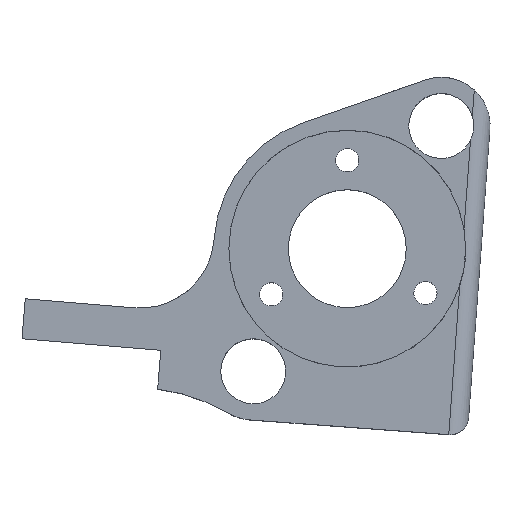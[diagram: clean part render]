
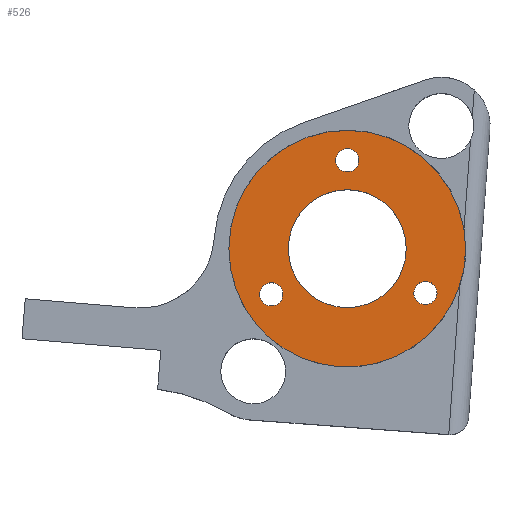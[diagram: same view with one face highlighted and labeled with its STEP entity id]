
A CAD part, top view. The second image highlights one B-rep face of the part: STEP entity #526.
In plain terms, the highlighted planar face has unit normal (0, 0, 1).
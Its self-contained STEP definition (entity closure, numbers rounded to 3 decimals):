
#10 = CIRCLE ( 'NONE', #87, 6.35 ) ;
#15 = FACE_BOUND ( 'NONE', #634, .T. ) ;
#66 = CIRCLE ( 'NONE', #1861, 12.75 ) ;
#76 = PLANE ( 'NONE',  #2318 ) ;
#83 = CARTESIAN_POINT ( 'NONE',  ( 0.485, -4.903, 6. ) ) ;
#87 = AXIS2_PLACEMENT_3D ( 'NONE', #2149, #995, #571 ) ;
#92 = CIRCLE ( 'NONE', #1568, 1.25 ) ;
#104 = VERTEX_POINT ( 'NONE', #1270 ) ;
#189 = CARTESIAN_POINT ( 'NONE',  ( 9.912, 9.539, 6. ) ) ;
#200 = CARTESIAN_POINT ( 'NONE',  ( 22.662, 0.014, 6. ) ) ;
#203 = DIRECTION ( 'NONE',  ( 1., 0., 0. ) ) ;
#219 = DIRECTION ( 'NONE',  ( 0., 0., 1. ) ) ;
#229 = AXIS2_PLACEMENT_3D ( 'NONE', #1658, #1327, #1121 ) ;
#235 = ORIENTED_EDGE ( 'NONE', *, *, #1036, .T. ) ;
#238 = CIRCLE ( 'NONE', #1623, 1.25 ) ;
#254 = CARTESIAN_POINT ( 'NONE',  ( 2.985, -4.903, 6. ) ) ;
#282 = DIRECTION ( 'NONE',  ( 1., 0., 0. ) ) ;
#301 = DIRECTION ( 'NONE',  ( 0., 0., 1. ) ) ;
#320 = ORIENTED_EDGE ( 'NONE', *, *, #1419, .F. ) ;
#398 = ORIENTED_EDGE ( 'NONE', *, *, #886, .T. ) ;
#452 = FACE_BOUND ( 'NONE', #1485, .T. ) ;
#468 = DIRECTION ( 'NONE',  ( 0., 0., 1. ) ) ;
#512 = FACE_BOUND ( 'NONE', #2035, .T. ) ;
#525 = EDGE_CURVE ( 'NONE', #696, #104, #1854, .T. ) ;
#526 = ADVANCED_FACE ( 'NONE', ( #15, #452, #1397, #512, #2281 ), #76, .T. ) ;
#537 = EDGE_LOOP ( 'NONE', ( #1975, #1993 ) ) ;
#546 = ORIENTED_EDGE ( 'NONE', *, *, #1990, .F. ) ;
#566 = AXIS2_PLACEMENT_3D ( 'NONE', #1278, #1518, #282 ) ;
#571 = DIRECTION ( 'NONE',  ( 1., 0., 0. ) ) ;
#580 = ORIENTED_EDGE ( 'NONE', *, *, #731, .F. ) ;
#588 = CARTESIAN_POINT ( 'NONE',  ( -2.838, 0.014, 6. ) ) ;
#590 = CARTESIAN_POINT ( 'NONE',  ( 19.58, -4.762, 6. ) ) ;
#595 = CARTESIAN_POINT ( 'NONE',  ( 1.735, -4.903, 6. ) ) ;
#613 = VERTEX_POINT ( 'NONE', #1955 ) ;
#634 = EDGE_LOOP ( 'NONE', ( #826, #580 ) ) ;
#656 = CIRCLE ( 'NONE', #855, 1.25 ) ;
#696 = VERTEX_POINT ( 'NONE', #1890 ) ;
#697 = EDGE_CURVE ( 'NONE', #1178, #2155, #656, .T. ) ;
#716 = CARTESIAN_POINT ( 'NONE',  ( 1.735, -4.903, 6. ) ) ;
#731 = EDGE_CURVE ( 'NONE', #1627, #1784, #92, .T. ) ;
#777 = VERTEX_POINT ( 'NONE', #200 ) ;
#817 = DIRECTION ( 'NONE',  ( 0., 0., 1. ) ) ;
#826 = ORIENTED_EDGE ( 'NONE', *, *, #875, .F. ) ;
#827 = DIRECTION ( 'NONE',  ( 1., 0., 0. ) ) ;
#831 = VERTEX_POINT ( 'NONE', #2126 ) ;
#844 = CIRCLE ( 'NONE', #2271, 1.25 ) ;
#855 = AXIS2_PLACEMENT_3D ( 'NONE', #1351, #468, #1659 ) ;
#875 = EDGE_CURVE ( 'NONE', #1784, #1627, #844, .T. ) ;
#886 = EDGE_CURVE ( 'NONE', #2085, #777, #1669, .T. ) ;
#952 = DIRECTION ( 'NONE',  ( 0., 0., 1. ) ) ;
#995 = DIRECTION ( 'NONE',  ( 0., 0., 1. ) ) ;
#1036 = EDGE_CURVE ( 'NONE', #777, #2085, #66, .T. ) ;
#1121 = DIRECTION ( 'NONE',  ( 1., 0., 0. ) ) ;
#1151 = CIRCLE ( 'NONE', #2090, 6.35 ) ;
#1178 = VERTEX_POINT ( 'NONE', #590 ) ;
#1190 = ORIENTED_EDGE ( 'NONE', *, *, #2290, .F. ) ;
#1262 = CIRCLE ( 'NONE', #229, 1.25 ) ;
#1270 = CARTESIAN_POINT ( 'NONE',  ( 11.162, 9.539, 6. ) ) ;
#1278 = CARTESIAN_POINT ( 'NONE',  ( 9.912, 0.014, 6. ) ) ;
#1300 = CARTESIAN_POINT ( 'NONE',  ( 9.912, 0.014, 6. ) ) ;
#1309 = CARTESIAN_POINT ( 'NONE',  ( 17.08, -4.762, 6. ) ) ;
#1327 = DIRECTION ( 'NONE',  ( 0., 0., 1. ) ) ;
#1351 = CARTESIAN_POINT ( 'NONE',  ( 18.33, -4.762, 6. ) ) ;
#1397 = FACE_BOUND ( 'NONE', #537, .T. ) ;
#1419 = EDGE_CURVE ( 'NONE', #2155, #1178, #1262, .T. ) ;
#1485 = EDGE_LOOP ( 'NONE', ( #1609, #320 ) ) ;
#1518 = DIRECTION ( 'NONE',  ( 0., 0., 1. ) ) ;
#1568 = AXIS2_PLACEMENT_3D ( 'NONE', #595, #219, #2160 ) ;
#1578 = DIRECTION ( 'NONE',  ( 1., 0., 0. ) ) ;
#1596 = DIRECTION ( 'NONE',  ( 1., 0., 0. ) ) ;
#1609 = ORIENTED_EDGE ( 'NONE', *, *, #697, .F. ) ;
#1611 = DIRECTION ( 'NONE',  ( 0., 0., 1. ) ) ;
#1623 = AXIS2_PLACEMENT_3D ( 'NONE', #189, #301, #1578 ) ;
#1627 = VERTEX_POINT ( 'NONE', #83 ) ;
#1658 = CARTESIAN_POINT ( 'NONE',  ( 18.33, -4.762, 6. ) ) ;
#1659 = DIRECTION ( 'NONE',  ( 1., 0., 0. ) ) ;
#1669 = CIRCLE ( 'NONE', #566, 12.75 ) ;
#1673 = CARTESIAN_POINT ( 'NONE',  ( 9.912, 9.539, 6. ) ) ;
#1684 = DIRECTION ( 'NONE',  ( 1., 0., 0. ) ) ;
#1694 = DIRECTION ( 'NONE',  ( 0., 0., 1. ) ) ;
#1762 = DIRECTION ( 'NONE',  ( 0., 0., 1. ) ) ;
#1784 = VERTEX_POINT ( 'NONE', #254 ) ;
#1854 = CIRCLE ( 'NONE', #1960, 1.25 ) ;
#1861 = AXIS2_PLACEMENT_3D ( 'NONE', #2223, #817, #1684 ) ;
#1890 = CARTESIAN_POINT ( 'NONE',  ( 8.662, 9.539, 6. ) ) ;
#1940 = EDGE_CURVE ( 'NONE', #104, #696, #238, .T. ) ;
#1955 = CARTESIAN_POINT ( 'NONE',  ( 3.562, 0.014, 6. ) ) ;
#1960 = AXIS2_PLACEMENT_3D ( 'NONE', #1673, #952, #203 ) ;
#1975 = ORIENTED_EDGE ( 'NONE', *, *, #1940, .F. ) ;
#1990 = EDGE_CURVE ( 'NONE', #613, #831, #1151, .T. ) ;
#1993 = ORIENTED_EDGE ( 'NONE', *, *, #525, .F. ) ;
#2008 = EDGE_LOOP ( 'NONE', ( #235, #398 ) ) ;
#2035 = EDGE_LOOP ( 'NONE', ( #546, #1190 ) ) ;
#2085 = VERTEX_POINT ( 'NONE', #588 ) ;
#2090 = AXIS2_PLACEMENT_3D ( 'NONE', #1300, #1762, #1596 ) ;
#2126 = CARTESIAN_POINT ( 'NONE',  ( 16.262, 0.014, 6. ) ) ;
#2149 = CARTESIAN_POINT ( 'NONE',  ( 9.912, 0.014, 6. ) ) ;
#2155 = VERTEX_POINT ( 'NONE', #1309 ) ;
#2160 = DIRECTION ( 'NONE',  ( 1., 0., 0. ) ) ;
#2180 = CARTESIAN_POINT ( 'NONE',  ( 9.912, 0.014, 6. ) ) ;
#2181 = DIRECTION ( 'NONE',  ( 1., 0., 0. ) ) ;
#2223 = CARTESIAN_POINT ( 'NONE',  ( 9.912, 0.014, 6. ) ) ;
#2271 = AXIS2_PLACEMENT_3D ( 'NONE', #716, #1694, #827 ) ;
#2281 = FACE_OUTER_BOUND ( 'NONE', #2008, .T. ) ;
#2290 = EDGE_CURVE ( 'NONE', #831, #613, #10, .T. ) ;
#2318 = AXIS2_PLACEMENT_3D ( 'NONE', #2180, #1611, #2181 ) ;
